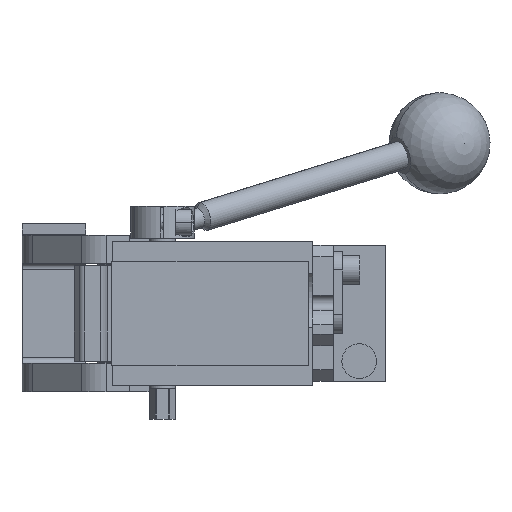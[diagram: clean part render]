
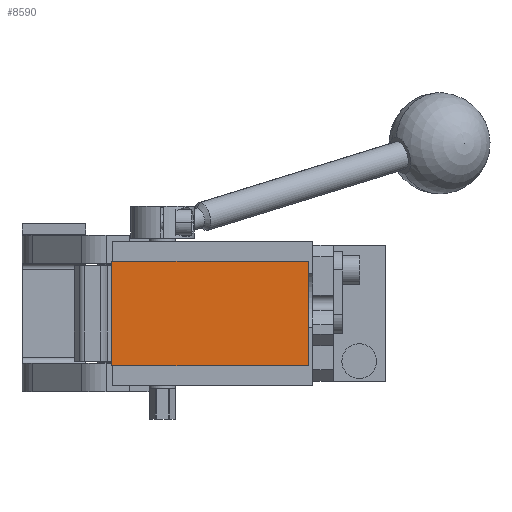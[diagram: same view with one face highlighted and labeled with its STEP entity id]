
A CAD part, front view. The second image highlights one B-rep face of the part: STEP entity #8590.
In plain terms, the highlighted planar face has unit normal (0, -1, 0).
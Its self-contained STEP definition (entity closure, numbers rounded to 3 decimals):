
#270 = DIRECTION ( 'NONE',  ( 0., 0., -1. ) ) ;
#965 = VERTEX_POINT ( 'NONE', #8833 ) ;
#1264 = EDGE_CURVE ( 'NONE', #2451, #4698, #4888, .T. ) ;
#2259 = ORIENTED_EDGE ( 'NONE', *, *, #1264, .T. ) ;
#2451 = VERTEX_POINT ( 'NONE', #10650 ) ;
#2458 = DIRECTION ( 'NONE',  ( 0., 0., 1. ) ) ;
#3737 = LINE ( 'NONE', #9925, #7317 ) ;
#3854 = EDGE_CURVE ( 'NONE', #4698, #10998, #10947, .T. ) ;
#4009 = VECTOR ( 'NONE', #7848, 1000. ) ;
#4286 = ORIENTED_EDGE ( 'NONE', *, *, #6303, .T. ) ;
#4429 = LINE ( 'NONE', #9383, #4009 ) ;
#4698 = VERTEX_POINT ( 'NONE', #11332 ) ;
#4888 = LINE ( 'NONE', #11141, #11460 ) ;
#5393 = CARTESIAN_POINT ( 'NONE',  ( 0., -233., 0. ) ) ;
#5407 = EDGE_CURVE ( 'NONE', #10998, #965, #3737, .T. ) ;
#6098 = DIRECTION ( 'NONE',  ( -1., 0., 0. ) ) ;
#6303 = EDGE_CURVE ( 'NONE', #965, #2451, #4429, .T. ) ;
#6487 = AXIS2_PLACEMENT_3D ( 'NONE', #5393, #7745, #270 ) ;
#7311 = CARTESIAN_POINT ( 'NONE',  ( -6., -233., 18. ) ) ;
#7317 = VECTOR ( 'NONE', #8778, 1000. ) ;
#7745 = DIRECTION ( 'NONE',  ( 0., -1., 0. ) ) ;
#7848 = DIRECTION ( 'NONE',  ( 1., 0., 0. ) ) ;
#8590 = ADVANCED_FACE ( 'NONE', ( #11546 ), #8980, .T. ) ;
#8617 = VECTOR ( 'NONE', #6098, 1000. ) ;
#8778 = DIRECTION ( 'NONE',  ( 0., 0., -1. ) ) ;
#8833 = CARTESIAN_POINT ( 'NONE',  ( -6., -233., -18. ) ) ;
#8980 = PLANE ( 'NONE',  #6487 ) ;
#9383 = CARTESIAN_POINT ( 'NONE',  ( -6., -233., -18. ) ) ;
#9925 = CARTESIAN_POINT ( 'NONE',  ( -6., -233., 18. ) ) ;
#10512 = ORIENTED_EDGE ( 'NONE', *, *, #5407, .T. ) ;
#10650 = CARTESIAN_POINT ( 'NONE',  ( 62., -233., -18. ) ) ;
#10947 = LINE ( 'NONE', #7311, #8617 ) ;
#10998 = VERTEX_POINT ( 'NONE', #11884 ) ;
#11141 = CARTESIAN_POINT ( 'NONE',  ( 62., -233., 18. ) ) ;
#11332 = CARTESIAN_POINT ( 'NONE',  ( 62., -233., 18. ) ) ;
#11460 = VECTOR ( 'NONE', #2458, 1000. ) ;
#11546 = FACE_OUTER_BOUND ( 'NONE', #11585, .T. ) ;
#11585 = EDGE_LOOP ( 'NONE', ( #10512, #4286, #2259, #14559 ) ) ;
#11884 = CARTESIAN_POINT ( 'NONE',  ( -6., -233., 18. ) ) ;
#14559 = ORIENTED_EDGE ( 'NONE', *, *, #3854, .T. ) ;
